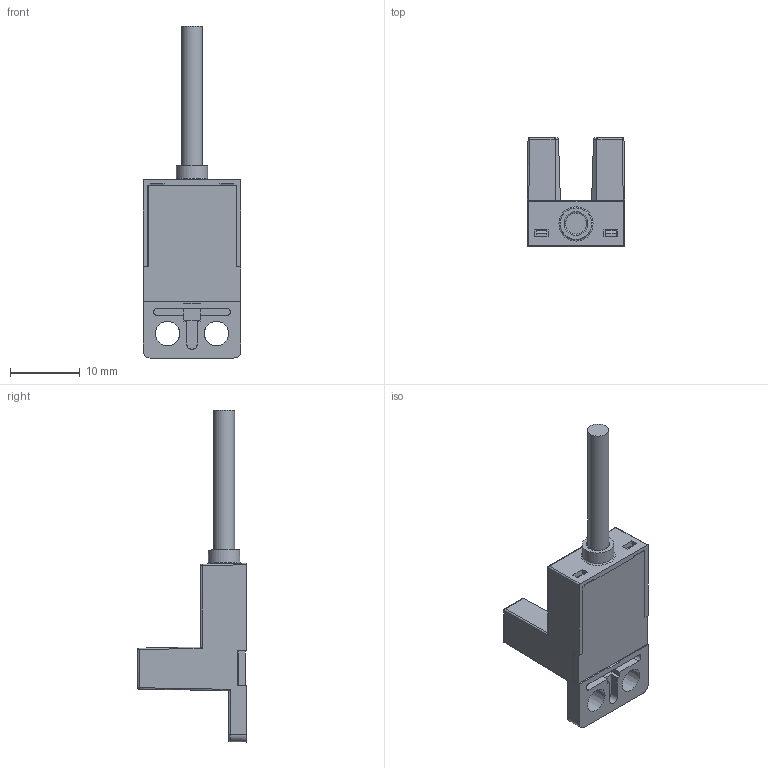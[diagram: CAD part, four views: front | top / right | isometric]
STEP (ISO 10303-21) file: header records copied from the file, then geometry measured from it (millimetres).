
FILE_DESCRIPTION(/* description */ (''),/* implementation_level */ '2;1');
FILE_NAME(/* name */ '307-出线.stp',/* time_stamp */ '2016-12-22T15:41:58+08:00',/* author */ (''),/* organization */ (''),/* preprocessor_version */ 'ST-DEVELOPER v16',/* originating_system */ 'SIEMENS PLM Software NX 10.0',/* authorisation */ '');
FILE_SCHEMA (('AP203_CONFIGURATION_CONTROLLED_3D_DESIGN_OF_MECHANICAL_PARTS_AND_ASSEMBLIES_MIM_LF { 1 0 10303 403 2 1 2}'));
Length unit declared in the file: millimetre
Products named in the file (1): Gavi0C983A09kau2
Bounding box: 14 x 15.5 x 47.51 mm (x, y, z)
Volume: 1421.5 mm3; surface area: 3921.1 mm2
Topology: 9 solids, 9 shells, 409 faces, 1118 edges, 734 vertices
Faces by surface type: plane 328, cylinder 59, sphere 7, torus 7, cone 5, bspline 3
Full cylindrical faces by diameter (mm): 0.6 x4, 0.9 x4, 1.5 x2, 3 x3, 3.6 x1, 4.5 x1, 5 x1
Entity records: 12722 total; most frequent: CARTESIAN_POINT 2277, ORIENTED_EDGE 2154, DIRECTION 2040, EDGE_CURVE 1077, LINE 920, VECTOR 920, VERTEX_POINT 724, AXIS2_PLACEMENT_3D 560
